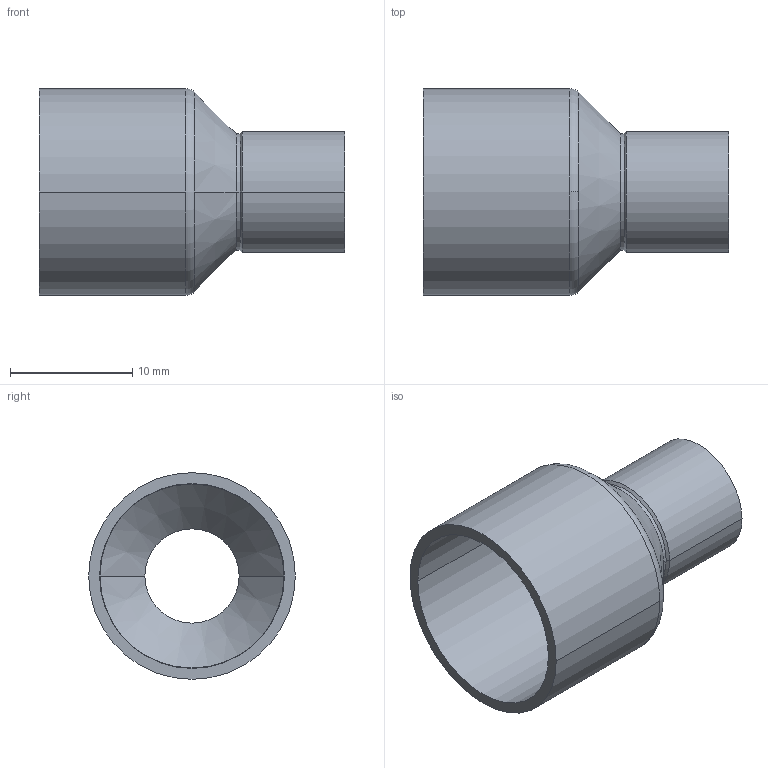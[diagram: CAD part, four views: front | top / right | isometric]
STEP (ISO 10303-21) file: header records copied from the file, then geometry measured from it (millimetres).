
FILE_DESCRIPTION((''),'2;1');
FILE_NAME('G:\Technics\CAD\Bauteile\Serie 15240\15240158.stp','2005-10-21T12:51:00',('boden'),(''),'Autodesk Inventor 8','Autodesk Inventor 8','');
FILE_SCHEMA(('AUTOMOTIVE_DESIGN { 1 0 10303 214 1 1 1 1 }'));
Length unit declared in the file: millimetre
Products named in the file (1): 15240158
Bounding box: 25 x 16.91 x 16.91 mm (x, y, z)
Volume: 966.8 mm3; surface area: 2219.1 mm2
Topology: 1 solids, 1 shells, 26 faces, 60 edges, 36 vertices
Faces by surface type: cylinder 12, cone 8, torus 2, bspline 2, plane 2
Entity records: 855 total; most frequent: CARTESIAN_POINT 211, DIRECTION 150, ORIENTED_EDGE 120, AXIS2_PLACEMENT_3D 65, EDGE_CURVE 60, CIRCLE 40, VERTEX_POINT 36, EDGE_LOOP 28
